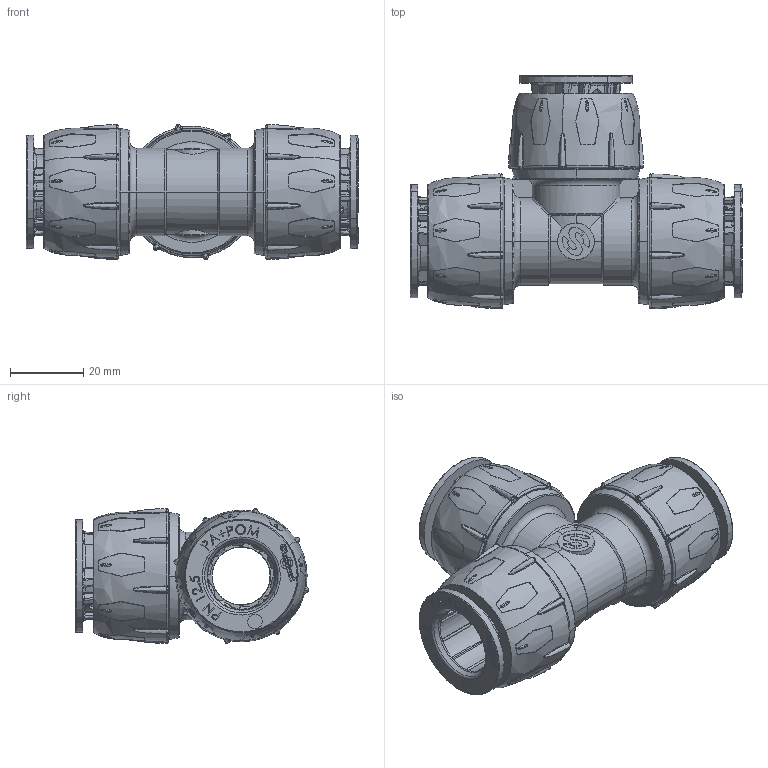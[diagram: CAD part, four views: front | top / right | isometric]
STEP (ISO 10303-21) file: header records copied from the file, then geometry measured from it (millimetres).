
FILE_DESCRIPTION (( 'STEP AP203' ), '1' );
FILE_NAME ('R214.018.000.STEP', '2024-06-20T12:14:48', ( '' ), ( '' ), 'SwSTEP 2.0', 'SolidWorks 2021', '' );
FILE_SCHEMA (( 'CONFIG_CONTROL_DESIGN' ));
Length unit declared in the file: millimetre
Products named in the file (7): R209.018.003; R209.018.002; R214.018.000-L; R209.018.001; GUARNIZIONI OR_OR-123; R214.018.000; R216.018.000
Assembly tree (16 placements, depth 2):
  R214.018.000
    R209.018.002  x3
    R216.018.000  x3
    R209.018.003  x3
    R209.018.001  x3
    GUARNIZIONI OR_OR-123  x3
    R214.018.000-L
Bounding box: 90.81 x 63.84 x 36.88 mm (x, y, z)
Volume: 53877.9 mm3; surface area: 54741.2 mm2
Topology: 16 solids, 16 shells, 3869 faces, 9721 edges, 6081 vertices
Faces by surface type: bspline 1253, plane 1114, cylinder 888, cone 273, torus 221, sphere 120
Entity records: 100797 total; most frequent: CARTESIAN_POINT 66266, ORIENTED_EDGE 7954, DIRECTION 5587, EDGE_CURVE 3977, VERTEX_POINT 2507, AXIS2_PLACEMENT_3D 2156, EDGE_LOOP 1686, FACE_OUTER_BOUND 1577
